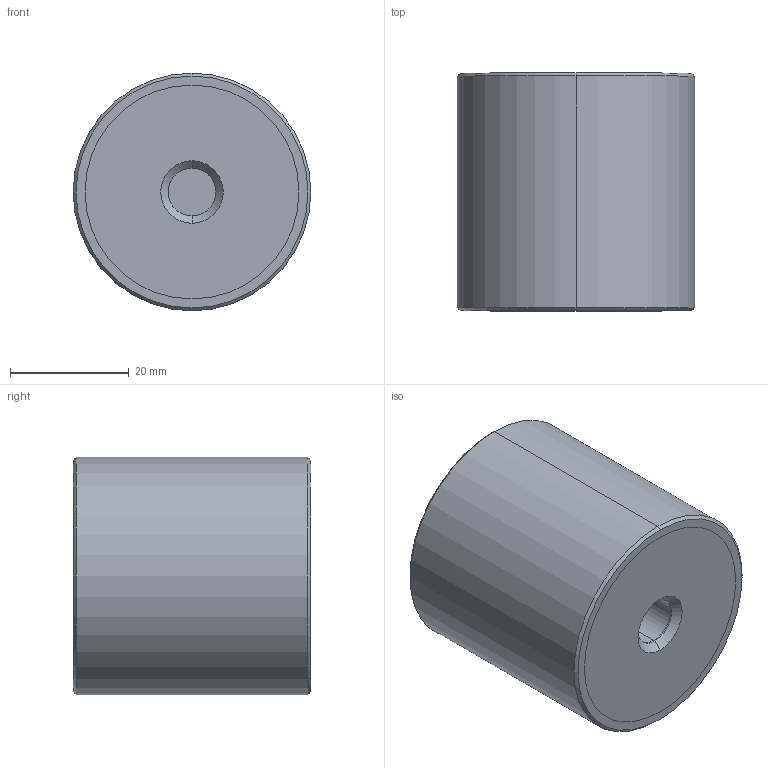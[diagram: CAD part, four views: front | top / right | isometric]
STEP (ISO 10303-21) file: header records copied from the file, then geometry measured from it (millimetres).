
FILE_DESCRIPTION (( 'STEP AP203' ), '1' );
FILE_NAME ('61080.W0402.step', '2018-07-16T20:44:38', ( '' ), ( '' ), 'SwSTEP 2.0', 'SolidWorks 2017', '' );
FILE_SCHEMA (( 'CONFIG_CONTROL_DESIGN' ));
Length unit declared in the file: millimetre
Products named in the file (4): Part1_61080.W0402; Part2_61080.W0402; Part3_61080.W0402; 61080.W0402
Assembly tree (3 placements, depth 2):
  61080.W0402
    Part1_61080.W0402
    Part2_61080.W0402
    Part3_61080.W0402
Bounding box: 40 x 40 x 40 mm (x, y, z)
Volume: 49386.7 mm3; surface area: 12384 mm2
Topology: 3 solids, 3 shells, 36 faces, 70 edges, 44 vertices
Faces by surface type: cylinder 18, plane 10, cone 8
Entity records: 1356 total; most frequent: DIRECTION 198, CARTESIAN_POINT 156, ORIENTED_EDGE 140, AXIS2_PLACEMENT_3D 86, EDGE_CURVE 70, CIRCLE 44, EDGE_LOOP 44, VERTEX_POINT 44
